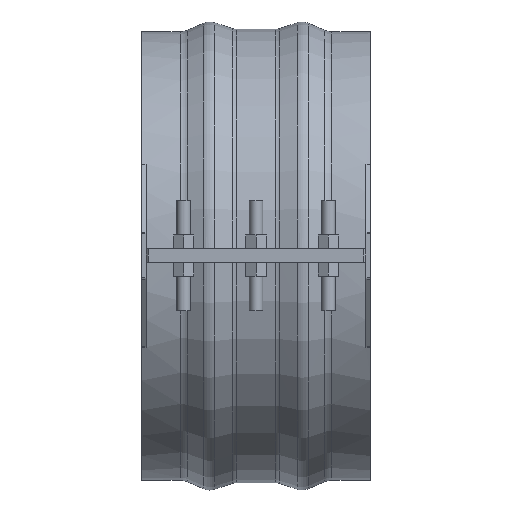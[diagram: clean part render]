
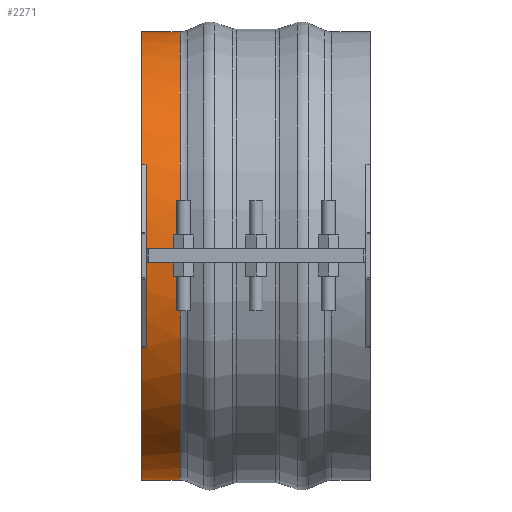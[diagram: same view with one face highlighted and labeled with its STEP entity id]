
A CAD part, top view. The second image highlights one B-rep face of the part: STEP entity #2271.
In plain terms, the highlighted cylindrical face has radius 311.15 mm (diameter 622.3 mm), a partial arc.
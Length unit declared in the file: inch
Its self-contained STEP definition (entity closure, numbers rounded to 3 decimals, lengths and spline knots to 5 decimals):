
#269=FACE_OUTER_BOUND('',#398,.T.);
#398=EDGE_LOOP('',(#1884,#1885,#1886,#1887,#1888,#1889,#1890,#1891));
#557=LINE('',#3535,#748);
#558=LINE('',#3538,#749);
#596=LINE('',#3635,#787);
#603=LINE('',#3799,#794);
#748=VECTOR('',#2874,0.3937);
#749=VECTOR('',#2877,0.3937);
#787=VECTOR('',#2967,0.3937);
#794=VECTOR('',#2978,0.3937);
#825=CIRCLE('',#2393,12.25);
#826=CIRCLE('',#2395,12.25);
#852=CIRCLE('',#2457,12.25);
#853=CIRCLE('',#2458,12.25);
#994=VERTEX_POINT('',#3473);
#999=VERTEX_POINT('',#3483);
#1000=VERTEX_POINT('',#3487);
#1002=VERTEX_POINT('',#3490);
#1015=VERTEX_POINT('',#3533);
#1016=VERTEX_POINT('',#3537);
#1049=VERTEX_POINT('',#3634);
#1072=VERTEX_POINT('',#3790);
#1253=EDGE_CURVE('',#994,#999,#825,.T.);
#1255=EDGE_CURVE('',#1002,#1000,#826,.T.);
#1278=EDGE_CURVE('',#999,#1015,#557,.T.);
#1279=EDGE_CURVE('',#1016,#1002,#558,.T.);
#1327=EDGE_CURVE('',#1049,#994,#596,.T.);
#1354=EDGE_CURVE('',#1000,#1072,#603,.T.);
#1364=EDGE_CURVE('',#1015,#1016,#852,.T.);
#1365=EDGE_CURVE('',#1049,#1072,#853,.T.);
#1884=ORIENTED_EDGE('',*,*,#1278,.T.);
#1885=ORIENTED_EDGE('',*,*,#1364,.T.);
#1886=ORIENTED_EDGE('',*,*,#1279,.T.);
#1887=ORIENTED_EDGE('',*,*,#1255,.T.);
#1888=ORIENTED_EDGE('',*,*,#1354,.T.);
#1889=ORIENTED_EDGE('',*,*,#1365,.F.);
#1890=ORIENTED_EDGE('',*,*,#1327,.T.);
#1891=ORIENTED_EDGE('',*,*,#1253,.T.);
#2054=CYLINDRICAL_SURFACE('',#2456,12.25);
#2271=ADVANCED_FACE('',(#269),#2054,.T.);
#2393=AXIS2_PLACEMENT_3D('',#3485,#2823,#2824);
#2395=AXIS2_PLACEMENT_3D('',#3491,#2828,#2829);
#2456=AXIS2_PLACEMENT_3D('',#3817,#3013,#3014);
#2457=AXIS2_PLACEMENT_3D('',#3818,#3015,#3016);
#2458=AXIS2_PLACEMENT_3D('',#3819,#3017,#3018);
#2823=DIRECTION('center_axis',(1.,0.,0.));
#2824=DIRECTION('ref_axis',(0.,1.,0.));
#2828=DIRECTION('center_axis',(1.,0.,0.));
#2829=DIRECTION('ref_axis',(0.,1.,0.));
#2874=DIRECTION('',(-1.,0.,0.));
#2877=DIRECTION('',(1.,0.,0.));
#2967=DIRECTION('',(-1.,0.,0.));
#2978=DIRECTION('',(1.,0.,0.));
#3013=DIRECTION('center_axis',(1.,0.,0.));
#3014=DIRECTION('ref_axis',(0.,0.,
-1.));
#3015=DIRECTION('center_axis',(1.,0.,0.));
#3016=DIRECTION('ref_axis',(0.,0.,-1.));
#3017=DIRECTION('center_axis',(1.,0.,0.));
#3018=DIRECTION('ref_axis',(0.,0.,-1.));
#3473=CARTESIAN_POINT('',(-6.,-0.375,12.24426));
#3483=CARTESIAN_POINT('',(-6.,-5.,11.18313));
#3485=CARTESIAN_POINT('Origin',(-6.,0.,0.));
#3487=CARTESIAN_POINT('',(-6.,0.375,12.24426));
#3490=CARTESIAN_POINT('',(-6.,5.,11.18313));
#3491=CARTESIAN_POINT('Origin',(-6.,0.,0.));
#3533=CARTESIAN_POINT('',(-6.25,-5.,11.18313));
#3535=CARTESIAN_POINT('',(-5.19548,-5.,11.18313));
#3537=CARTESIAN_POINT('',(-6.25,5.,11.18313));
#3538=CARTESIAN_POINT('',(-5.19548,5.,11.18313));
#3634=CARTESIAN_POINT('',(-4.14095,-0.375,12.24426));
#3635=CARTESIAN_POINT('',(-5.19548,-0.375,12.24426));
#3790=CARTESIAN_POINT('',(-4.14095,0.375,12.24426));
#3799=CARTESIAN_POINT('',(-5.19548,0.375,12.24426));
#3817=CARTESIAN_POINT('Origin',(-5.19548,0.,0.));
#3818=CARTESIAN_POINT('Origin',(-6.25,0.,0.));
#3819=CARTESIAN_POINT('Origin',(-4.14095,0.,0.));
